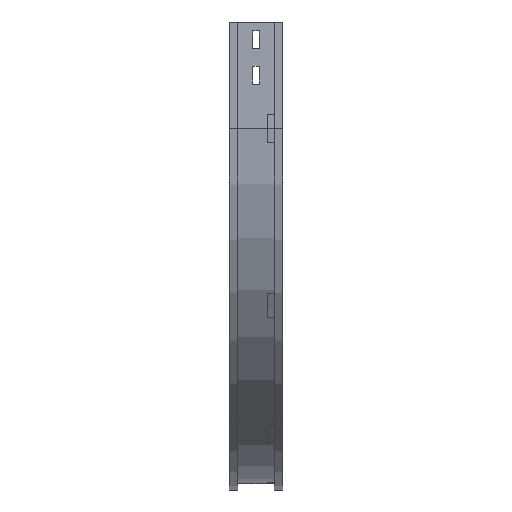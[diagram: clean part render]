
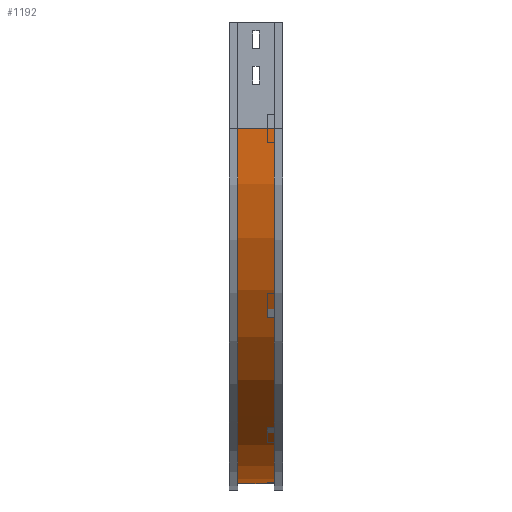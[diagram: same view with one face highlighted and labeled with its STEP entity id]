
A CAD part, left-side view. The second image highlights one B-rep face of the part: STEP entity #1192.
In plain terms, the highlighted cylindrical face has radius 500 mm (diameter 1000 mm), a partial arc.
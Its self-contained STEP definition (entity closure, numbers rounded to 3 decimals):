
#33 = VECTOR ( 'NONE', #3368, 1000. ) ;
#446 = CARTESIAN_POINT ( 'NONE',  ( 509., 12., -650. ) ) ;
#542 = ORIENTED_EDGE ( 'NONE', *, *, #573, .T. ) ;
#551 = EDGE_CURVE ( 'NONE', #1464, #2697, #1851, .T. ) ;
#573 = EDGE_CURVE ( 'NONE', #1675, #875, #1900, .T. ) ;
#797 = AXIS2_PLACEMENT_3D ( 'NONE', #2148, #3207, #2726 ) ;
#853 = CARTESIAN_POINT ( 'NONE',  ( 509., 12., -150. ) ) ;
#875 = VERTEX_POINT ( 'NONE', #1078 ) ;
#1078 = CARTESIAN_POINT ( 'NONE',  ( 509., 63., -650. ) ) ;
#1152 = ORIENTED_EDGE ( 'NONE', *, *, #551, .F. ) ;
#1192 = ADVANCED_FACE ( 'NONE', ( #2580 ), #2316, .T. ) ;
#1407 = CARTESIAN_POINT ( 'NONE',  ( 509., 12., -650. ) ) ;
#1464 = VERTEX_POINT ( 'NONE', #2570 ) ;
#1548 = DIRECTION ( 'NONE',  ( 0., -1., 0. ) ) ;
#1675 = VERTEX_POINT ( 'NONE', #3421 ) ;
#1719 = EDGE_CURVE ( 'NONE', #875, #2697, #2221, .T. ) ;
#1851 = CIRCLE ( 'NONE', #2525, 500. ) ;
#1873 = DIRECTION ( 'NONE',  ( -1., 0., 0. ) ) ;
#1889 = DIRECTION ( 'NONE',  ( 0., -1., 0. ) ) ;
#1900 = CIRCLE ( 'NONE', #797, 500. ) ;
#1928 = DIRECTION ( 'NONE',  ( 0., -1., 0. ) ) ;
#2038 = AXIS2_PLACEMENT_3D ( 'NONE', #3411, #1548, #2051 ) ;
#2051 = DIRECTION ( 'NONE',  ( 0., 0., -1. ) ) ;
#2148 = CARTESIAN_POINT ( 'NONE',  ( 509., 63., -150. ) ) ;
#2181 = EDGE_LOOP ( 'NONE', ( #1152, #2257, #542, #3100 ) ) ;
#2221 = LINE ( 'NONE', #1407, #2662 ) ;
#2257 = ORIENTED_EDGE ( 'NONE', *, *, #3254, .F. ) ;
#2316 = CYLINDRICAL_SURFACE ( 'NONE', #2038, 500. ) ;
#2525 = AXIS2_PLACEMENT_3D ( 'NONE', #853, #1889, #1873 ) ;
#2570 = CARTESIAN_POINT ( 'NONE',  ( 9., 12., -150. ) ) ;
#2572 = CARTESIAN_POINT ( 'NONE',  ( 9., 12., -150. ) ) ;
#2580 = FACE_OUTER_BOUND ( 'NONE', #2181, .T. ) ;
#2662 = VECTOR ( 'NONE', #1928, 1000. ) ;
#2697 = VERTEX_POINT ( 'NONE', #446 ) ;
#2726 = DIRECTION ( 'NONE',  ( -1., 0., 0. ) ) ;
#3100 = ORIENTED_EDGE ( 'NONE', *, *, #1719, .T. ) ;
#3207 = DIRECTION ( 'NONE',  ( 0., -1., 0. ) ) ;
#3254 = EDGE_CURVE ( 'NONE', #1675, #1464, #3387, .T. ) ;
#3368 = DIRECTION ( 'NONE',  ( 0., -1., 0. ) ) ;
#3387 = LINE ( 'NONE', #2572, #33 ) ;
#3411 = CARTESIAN_POINT ( 'NONE',  ( 509., 0., -150. ) ) ;
#3421 = CARTESIAN_POINT ( 'NONE',  ( 9., 63., -150. ) ) ;
